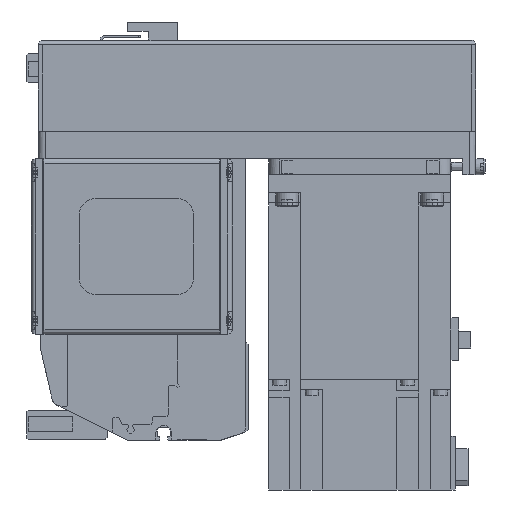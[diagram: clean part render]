
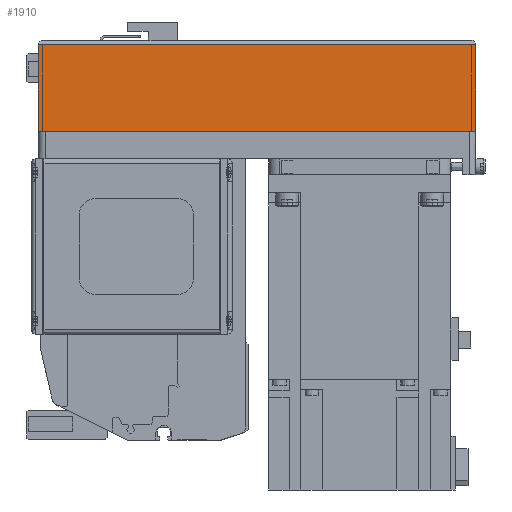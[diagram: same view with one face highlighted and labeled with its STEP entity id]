
A CAD part, left-side view. The second image highlights one B-rep face of the part: STEP entity #1910.
In plain terms, the highlighted planar face has unit normal (-1, 0, 0) as drawn and (0, -1, 0) by its records, which use the part's own axes.
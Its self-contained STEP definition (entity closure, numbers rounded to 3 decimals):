
#1910 = ADVANCED_FACE( '', ( #4656 ), #4657, .T. );
#4656 = FACE_OUTER_BOUND( '', #8460, .T. );
#4657 = PLANE( '', #8461 );
#8460 = EDGE_LOOP( '', ( #13915, #13916, #13917, #13918 ) );
#8461 = AXIS2_PLACEMENT_3D( '', #13919, #13920, #13921 );
#13915 = ORIENTED_EDGE( '', *, *, #22777, .F. );
#13916 = ORIENTED_EDGE( '', *, *, #21965, .F. );
#13917 = ORIENTED_EDGE( '', *, *, #22778, .T. );
#13918 = ORIENTED_EDGE( '', *, *, #22372, .T. );
#13919 = CARTESIAN_POINT( '', ( -192., -40., -12.1 ) );
#13920 = DIRECTION( '', ( 0., -1., 0. ) );
#13921 = DIRECTION( '', ( 0., 0., -1. ) );
#21965 = EDGE_CURVE( '', #26415, #26416, #26417, .T. );
#22372 = EDGE_CURVE( '', #26093, #25783, #27094, .T. );
#22777 = EDGE_CURVE( '', #26416, #25783, #27748, .T. );
#22778 = EDGE_CURVE( '', #26415, #26093, #27749, .T. );
#25783 = VERTEX_POINT( '', #31858 );
#26093 = VERTEX_POINT( '', #32335 );
#26415 = VERTEX_POINT( '', #32848 );
#26416 = VERTEX_POINT( '', #32849 );
#26417 = LINE( '', #32850, #32851 );
#27094 = LINE( '', #33948, #33949 );
#27748 = LINE( '', #34846, #34847 );
#27749 = LINE( '', #34848, #34849 );
#31858 = CARTESIAN_POINT( '', ( 0., -40., -50. ) );
#32335 = CARTESIAN_POINT( '', ( -192., -40., -50. ) );
#32848 = CARTESIAN_POINT( '', ( -192., -40., -12.1 ) );
#32849 = CARTESIAN_POINT( '', ( 0., -40., -12.1 ) );
#32850 = CARTESIAN_POINT( '', ( -192., -40., -12.1 ) );
#32851 = VECTOR( '', #40906, 1000. );
#33948 = CARTESIAN_POINT( '', ( -192., -40., -50. ) );
#33949 = VECTOR( '', #41393, 1000. );
#34846 = CARTESIAN_POINT( '', ( 0., -40., -12.1 ) );
#34847 = VECTOR( '', #41923, 1000. );
#34848 = CARTESIAN_POINT( '', ( -192., -40., -12.1 ) );
#34849 = VECTOR( '', #41924, 1000. );
#40906 = DIRECTION( '', ( 1., 0., 0. ) );
#41393 = DIRECTION( '', ( 1., 0., 0. ) );
#41923 = DIRECTION( '', ( 0., 0., -1. ) );
#41924 = DIRECTION( '', ( 0., 0., -1. ) );
